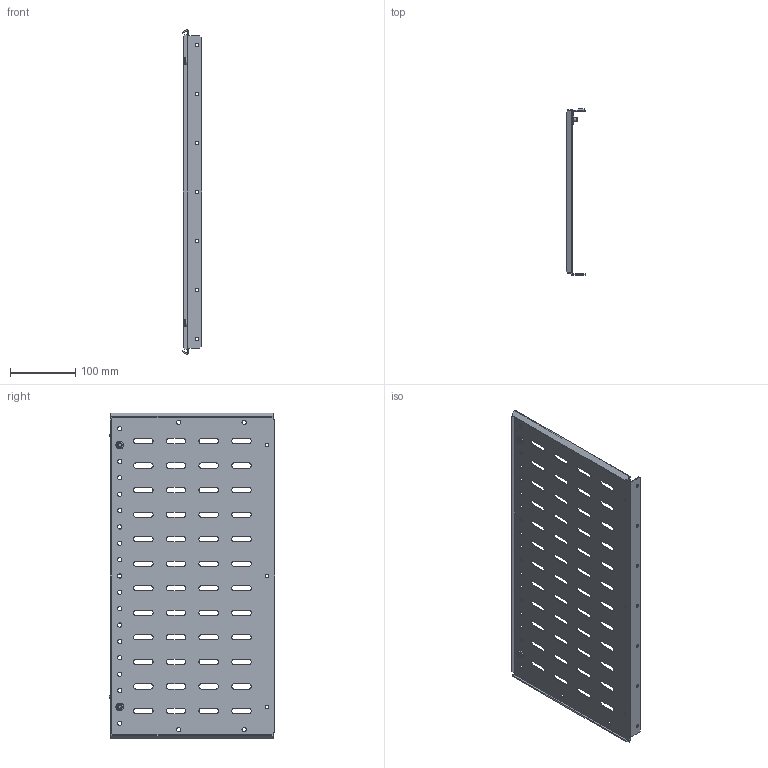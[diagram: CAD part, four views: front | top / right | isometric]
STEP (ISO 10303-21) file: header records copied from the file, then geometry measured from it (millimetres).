
FILE_DESCRIPTION (( 'STEP AP214' ), '1' );
FILE_NAME ('FO-00-SWFB-050 Ïåðåãîðîäêà ñåêöèîíèðîâàíèÿ çàäíÿÿ äëÿ âåðòèêàëüíîãî øèííîãî îòñåêà âûñîòà 500 ìì â øêàô øèðèíîé 600 ìì.STEP', '2025-08-08T12:02:20', ( '' ), ( '' ), 'SwSTEP 2.0', 'SolidWorks 2023', '' );
FILE_SCHEMA (( 'AUTOMOTIVE_DESIGN' ));
Length unit declared in the file: millimetre
Products named in the file (1): FO-00-SWFB-050 Перегородка секционирования задняя для вертикального шинного отсека высота 500 мм в шкаф шириной 600 мм
Bounding box: 30.53 x 253.25 x 497.3 mm (x, y, z)
Volume: 200160.9 mm3; surface area: 271719.8 mm2
Topology: 1 solids, 3 shells, 462 faces, 1334 edges, 884 vertices
Faces by surface type: cylinder 256, plane 190, cone 8, torus 8
Entity records: 15717 total; most frequent: DIRECTION 2796, CARTESIAN_POINT 2681, ORIENTED_EDGE 2668, EDGE_CURVE 1334, AXIS2_PLACEMENT_3D 999, VERTEX_POINT 884, LINE 798, VECTOR 798
